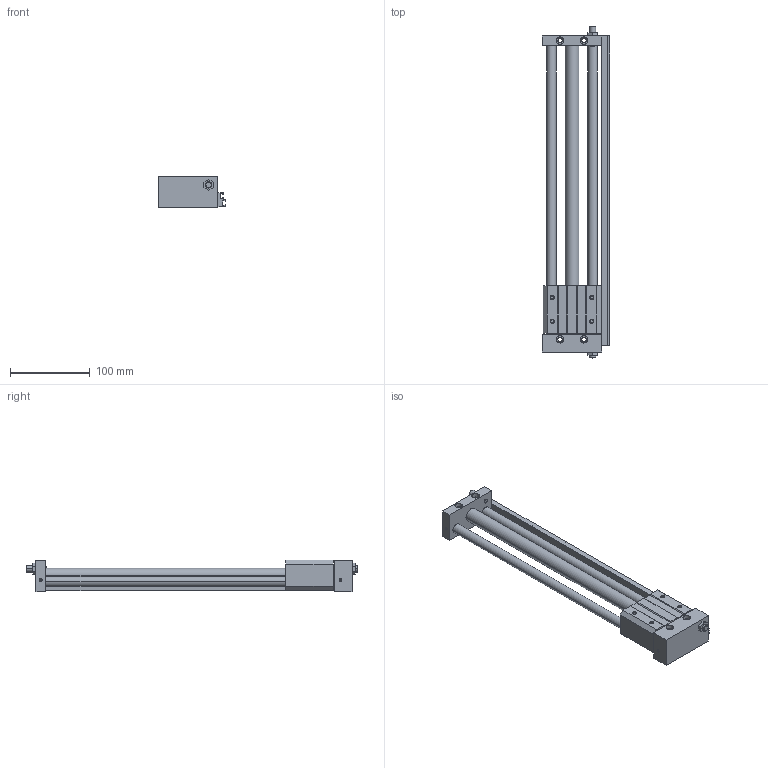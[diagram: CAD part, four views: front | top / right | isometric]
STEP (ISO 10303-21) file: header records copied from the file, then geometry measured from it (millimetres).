
FILE_DESCRIPTION((''),'2;1');
FILE_NAME('C:\Documents and Settings\Administrator\桌面\GYS\GYS15\GYSR15X300.stp','2012-03-05T10:52:30',('Administrator'),(''),'Autodesk Inventor 8','Autodesk Inventor 8','');
FILE_SCHEMA(('AUTOMOTIVE_DESIGN { 1 0 10303 214 1 1 1 1 }'));
Length unit declared in the file: millimetre
Products named in the file (3): GYSR15X300; GYS15X300; GYS15160X300
Assembly tree (2 placements, depth 2):
  GYSR15X300
    GYS15X300
    GYS15160X300
Bounding box: 85 x 417 x 40 mm (x, y, z)
Volume: 436880.9 mm3; surface area: 110530.9 mm2
Topology: 2 solids, 2 shells, 201 faces, 494 edges, 320 vertices
Faces by surface type: plane 107, cylinder 60, cone 28, bspline 6
Entity records: 6100 total; most frequent: CARTESIAN_POINT 1094, DIRECTION 1058, ORIENTED_EDGE 988, EDGE_CURVE 494, AXIS2_PLACEMENT_3D 364, VECTOR 330, LINE 330, VERTEX_POINT 320
